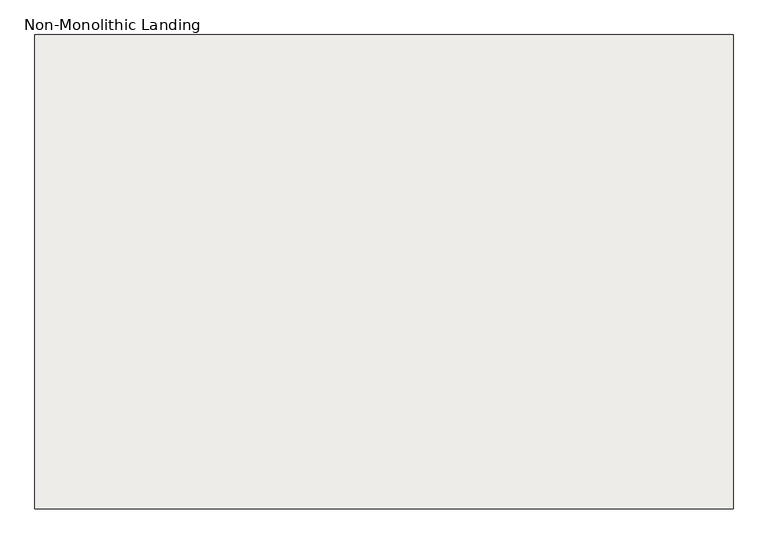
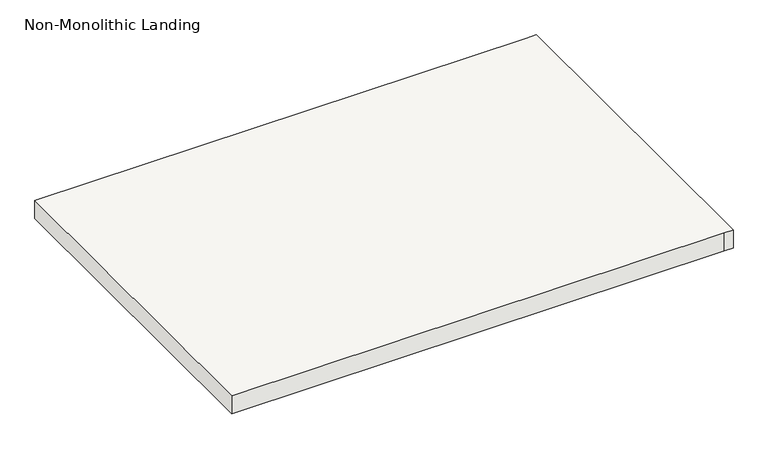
"""IFC4 building model written with IfcOpenShell, lengths in millimetres: slab geometry, Non-Monolithic Landing."""

from ifc_helpers import new_model, si_unit, frame, origin, place, context, project, spatial, polyline, outline, extrude, source, transform, mapped, element, save


def non_monolithic_landing_c73b08fc(model_context):
    return source(origin(), model_context, "Body", "SweptSolid", [
        extrude(outline(polyline([(-32569.67137, 24506.8177722), (-31248.87137, 24506.8177722), (-31223.47137, 24506.8177722), (-31223.47137, 23592.4177722), (-31248.87137, 23592.4177722), (-32569.67137, 23592.4177722), (-32569.67137, 24506.8177722)])), frame((0.0, 0.0, 2126.3428571), z_axis=(0.0, 0.0, 1.0), x_axis=(1.0, 0.0, 0.0)), (0.0, 0.0, 1.0), 50.8),
    ])


if __name__ == "__main__":
    model = new_model("IFC4")
    model_context = context("Model", 3, world=origin())
    ifc_project = project(units=[si_unit("LENGTHUNIT", "METRE", prefix="MILLI")], contexts=[model_context])
    site = spatial("IfcSite", under=ifc_project)
    building = spatial("IfcBuilding", under=site)
    placement = place(None, origin())
    non_monolithic_landing_shape = non_monolithic_landing_c73b08fc(model_context)
    element("IfcSlab", 1, ObjectType="Non-Monolithic Landing", at=placement, inside=building, context=model_context, shape_type="MappedRepresentation", body=[
        mapped(non_monolithic_landing_shape, transform((0.0, 0.0, 0.0), x_axis=(1.0, 0.0, 0.0), y_axis=(0.0, 1.0, 0.0), z_axis=(0.0, 0.0, 1.0))),
    ])
    save(model, "model.ifc")
